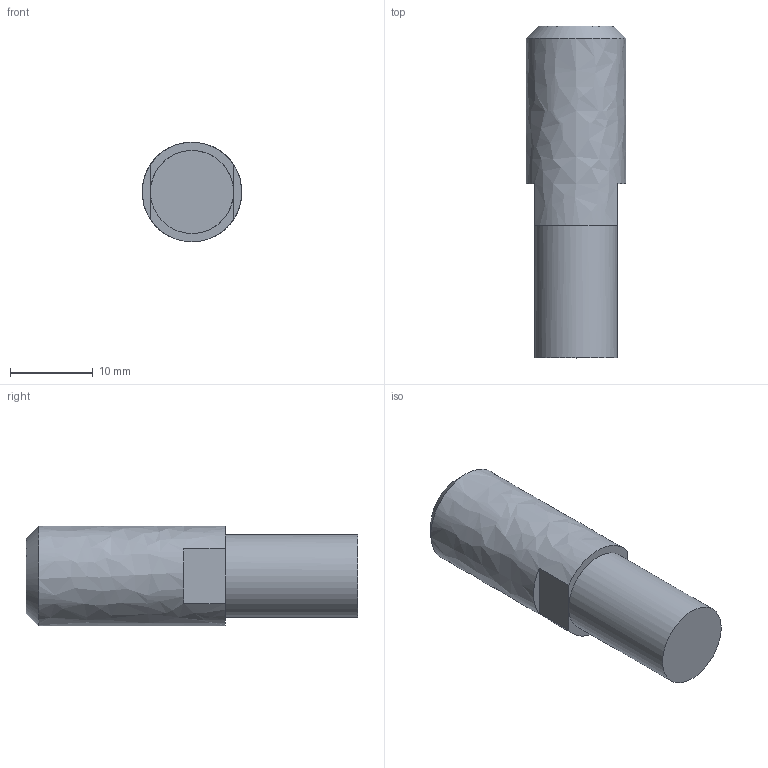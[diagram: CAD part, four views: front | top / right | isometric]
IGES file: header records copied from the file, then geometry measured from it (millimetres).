
Global section: file name: 1325_040_17F; native system: Autodesk Inventor 2014; preprocessor: unknown; author: A. Manieri; organization: Pneumax S.p.A.; date: 20161007.094008; units: millimetre
Bounding box: 12 x 40 x 12 mm (x, y, z)
Volume: 3887.5 mm3; surface area: 1593.8 mm2
Topology: 1 solids, 1 shells, 11 faces, 26 edges, 17 vertices
Faces by surface type: bspline 11
